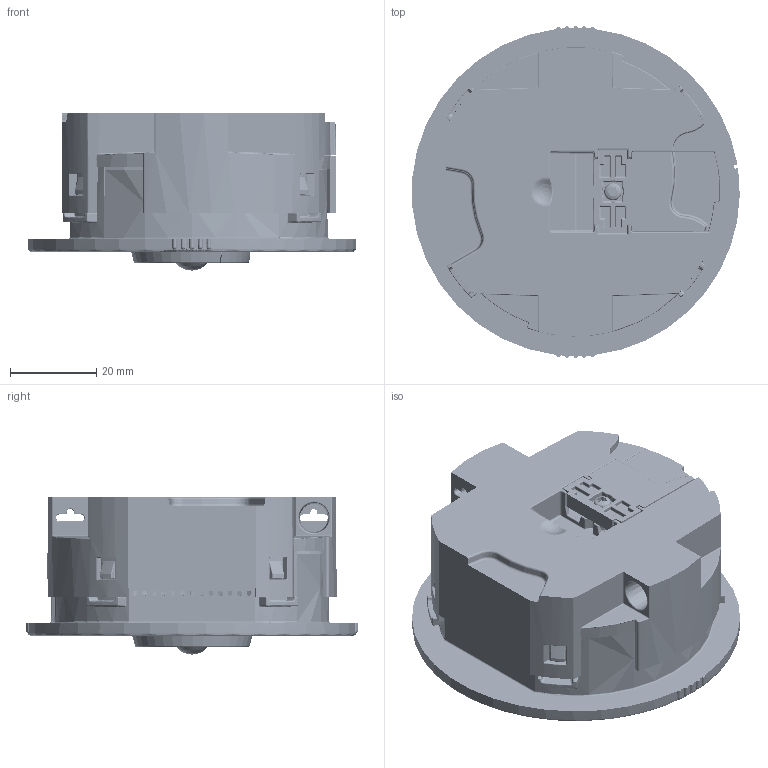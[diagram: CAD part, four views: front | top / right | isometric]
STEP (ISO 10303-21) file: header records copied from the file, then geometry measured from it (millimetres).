
FILE_DESCRIPTION(('STEP AP203'),'1');
FILE_NAME('Occu-DL MP 4M sensor MC_recessed.stp','2025-05-02T11:42:02',(' '),(' '),'Spatial InterOp 3D',' ',' ');
FILE_SCHEMA(('CONFIG_CONTROL_DESIGN'));
Length unit declared in the file: millimetre
Products named in the file (1): 1
Bounding box: 75.86 x 76.88 x 36.42 mm (x, y, z)
Volume: 36359 mm3; surface area: 47257 mm2
Topology: 4 solids, 4 shells, 5801 faces, 15380 edges, 9530 vertices
Faces by surface type: bspline 2785, plane 1173, cylinder 929, torus 306, cone 306, sphere 302
Full cylindrical faces by diameter (mm): 1.04 x1, 1.5 x1, 2.4 x1, 2.5 x1, 3 x1, 3.5 x1, 4 x3, 5 x4, 8.2 x1, 14.744 x1, 16.1 x1, 17.8 x1
Entity records: 240596 total; most frequent: CARTESIAN_POINT 113008, ORIENTED_EDGE 30030, DIRECTION 21017, EDGE_CURVE 15015, VERTEX_POINT 9460, AXIS2_PLACEMENT_3D 7867, EDGE_LOOP 6167, ADVANCED_FACE 5801
